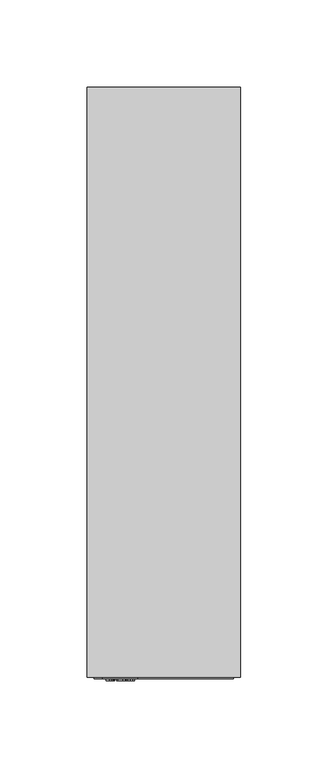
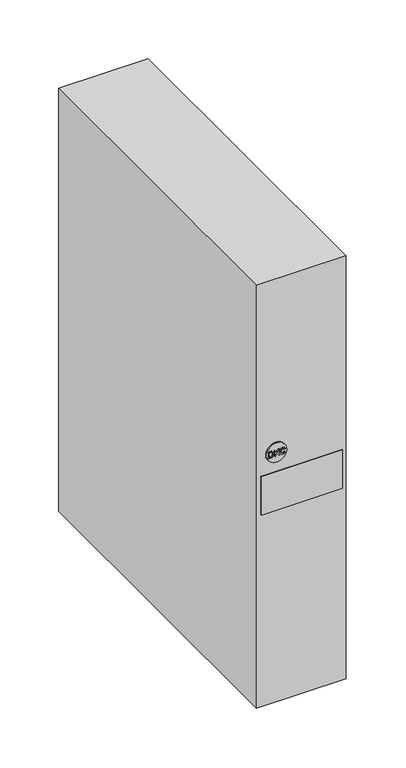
"""IFC4 building model written with IfcOpenShell, lengths in millimetres: proxy geometry, НВО_КНС_Линейно-интерактивныйИБПInfoRPro_DKC : 1000 ВА."""

from ifc_helpers import new_model, si_unit, point, frame, frame_2d, origin, origin_with_axes, place, context, project, spatial, polyline, circle_curve, trimmed, segment, composite_curve, outline, extrude, source, transform, mapped, element, save


def electrical_equipment_c4304d13(model_context):
    return source(origin(), model_context, "Body", "SweptSolid", [
        extrude(outline(polyline([(257.0, -33.1463789), (257.0, -30.967046), (257.103007, -29.9980448), (257.9520786, -28.7273804), (258.829845, -28.3153525), (260.0460629, -28.154956), (261.4793312, -28.391872), (262.5094008, -29.1055631), (262.9405585, -29.9914229), (263.0273786, -31.0671099), (263.0273786, -33.1463789), (257.0, -33.1463789)]), holes=[polyline([(257.7534223, -32.3929566), (262.2739563, -32.3929566), (262.2739563, -31.0803536), (262.153291, -30.0120243), (261.4852173, -29.2299072), (260.0578351, -28.9083783), (258.9181367, -29.0724537), (257.8623154, -30.0900153), (257.7534223, -31.0597522), (257.7534223, -32.3929566)])]), frame((0.0, -2.0, 0.0), z_axis=(0.0, 1.0, 0.0), x_axis=(0.0, 0.0, 1.0)), (0.0, 0.0, 1.0), 6.0),
        extrude(outline(polyline([(257.0, -26.7422891), (259.0719114, -26.365578), (260.0401768, -25.3502237), (257.0, -23.0487539), (257.0, -22.1275774), (260.5493255, -24.816059), (263.0273786, -22.2217552), (263.0273786, -23.2753692), (260.076965, -26.365578), (263.0273786, -27.1190003), (257.0, -26.7422891)])), frame((0.0, -2.0, 0.0), z_axis=(0.0, 1.0, 0.0), x_axis=(0.0, 0.0, 1.0)), (0.0, 0.0, 1.0), 6.0),
        extrude(outline(polyline([(259.1425447, -17.3245101), (258.0330126, -17.963889), (257.6592445, -19.1168311), (257.9336845, -20.1564657), (258.7628905, -20.8642706), (260.0607782, -21.0916217), (261.180611, -20.8995873), (262.0458694, -20.2337209), (262.3681341, -19.055027), (262.0775073, -18.0367296), (261.3307068, -16.6652655), (262.652139, -17.5165445), (263.1215564, -19.0255964), (262.7588248, -20.4735799), (261.6971173, -21.4881985), (260.0593067, -21.845044), (258.4479835, -21.5294013), (257.3016632, -20.6096963), (256.9058222, -19.0417832), (257.4289504, -17.4643052), (259.1425447, -17.3245101)])), frame((0.0, -2.0, 0.0), z_axis=(0.0, 1.0, 0.0), x_axis=(0.0, 0.0, 1.0)), (0.0, 0.0, 1.0), 6.0),
        extrude(outline(composite_curve([segment(trimmed(circle_curve(frame_2d((260.0, -25.0)), 10.0), [point((260.0, -35.0))], [point((260.0, -15.0))], False, "CARTESIAN"), True, "CONTINUOUS"), segment(trimmed(circle_curve(frame_2d((260.0, -25.0)), 10.0), [point((260.0, -15.0))], [point((260.0, -35.0))], False, "CARTESIAN"), True, "CONTINUOUS")], self_intersect=False)), frame((0.0, -1.0, 0.0), z_axis=(0.0, 1.0, 0.0), x_axis=(0.0, 0.0, 1.0)), (0.0, 0.0, 1.0), 10.0),
        extrude(outline(polyline([(44.0, 0.0), (-44.0, 0.0), (-44.0, 338.0), (44.0, 338.0), (44.0, 0.0)])), origin_with_axes(), (0.0, 0.0, 1.0), 440.0),
        extrude(outline(polyline([(40.0, -1.0), (-40.0, -1.0), (-40.0, 0.0), (40.0, 0.0), (40.0, -1.0)])), frame((0.0, 0.0, 200.0), z_axis=(0.0, 0.0, 1.0), x_axis=(1.0, 0.0, 0.0)), (0.0, 0.0, 1.0), 40.0),
    ])


if __name__ == "__main__":
    model = new_model("IFC4")
    model_context = context("Model", 3, world=origin())
    ifc_project = project(units=[si_unit("LENGTHUNIT", "METRE", prefix="MILLI")], contexts=[model_context])
    site = spatial("IfcSite", under=ifc_project)
    building = spatial("IfcBuilding", under=site)
    placement = place(None, origin())
    electrical_equipment_shape = electrical_equipment_c4304d13(model_context)
    element("IfcBuildingElementProxy", 1, Name="НВО_КНС_Линейно-интерактивныйИБПInfoRPro_DKC : 1000 ВА", ObjectType="НВО_КНС_Линейно-интерактивныйИБПInfoRPro_DKC : 1000 ВА", at=placement, inside=building, context=model_context, shape_type="MappedRepresentation", body=[
        mapped(electrical_equipment_shape, transform((0.0, 0.0, 0.0), x_axis=(1.0, 0.0, 0.0), y_axis=(0.0, 1.0, 0.0), z_axis=(0.0, 0.0, 1.0))),
    ])
    save(model, "model.ifc")
